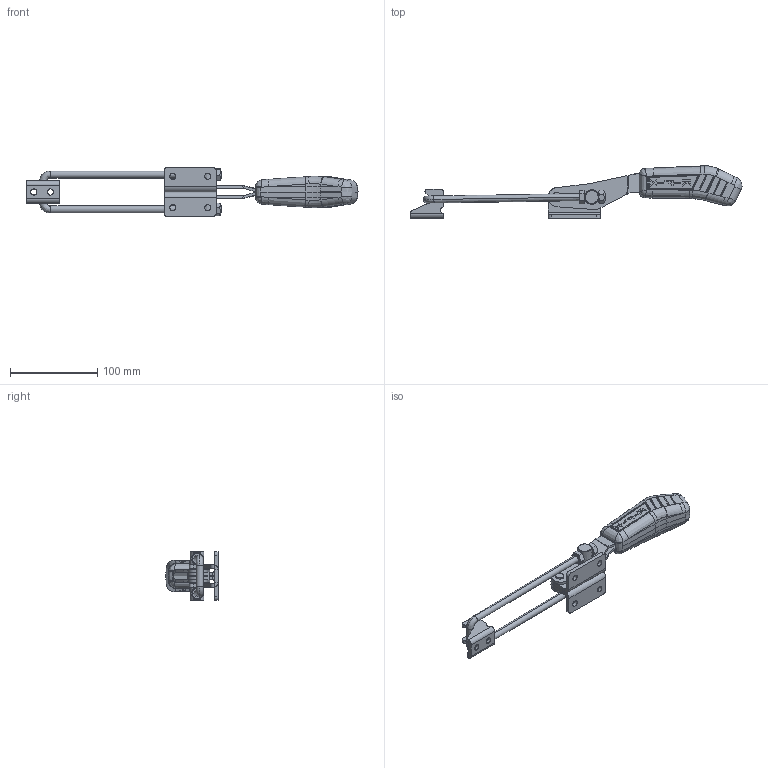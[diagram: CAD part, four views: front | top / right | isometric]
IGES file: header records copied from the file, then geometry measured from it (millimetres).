
Start section: SolidWorks IGES file using analytic representation for surfaces
Global section: file name: C:\Projetos\Grampos\KF-943\KF-943 DL\KF-943 DL.IGS; native system: SolidWorks 2013; preprocessor: SolidWorks 2013; author: Ricardo; date: 140821.112509; units: millimetre
Bounding box: 380.73 x 60.02 x 56.5 mm (x, y, z)
Surface area: 76056.3 mm2 (no closed solid volume)
Topology: 0 solids, 0 shells, 671 faces, 7440 edges, 7419 vertices
Faces by surface type: bspline 393, revolution 278
